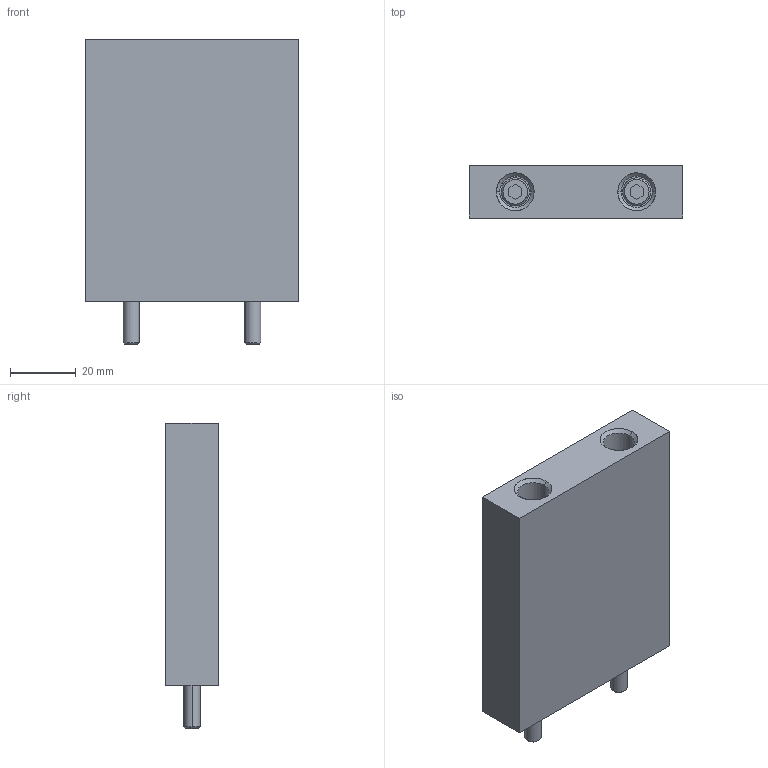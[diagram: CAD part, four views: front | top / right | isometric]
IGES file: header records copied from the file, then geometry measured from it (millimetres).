
Global section: file name: E:\UnigraphicsGraphicData\MISUMI_PRESS-PARTS\IGES\3d_sbvk16-65-80-n-80_00153_r00.igs; native system: NX V5.0; preprocessor: UGS NX IGES V5.0; author: MISUMI; date: 20110105.162510; units: millimetre
Bounding box: 65 x 16 x 93 mm (x, y, z)
Surface area: 21246.8 mm2 (no closed solid volume)
Topology: 0 solids, 0 shells, 56 faces, 336 edges, 336 vertices
Faces by surface type: bspline 56
